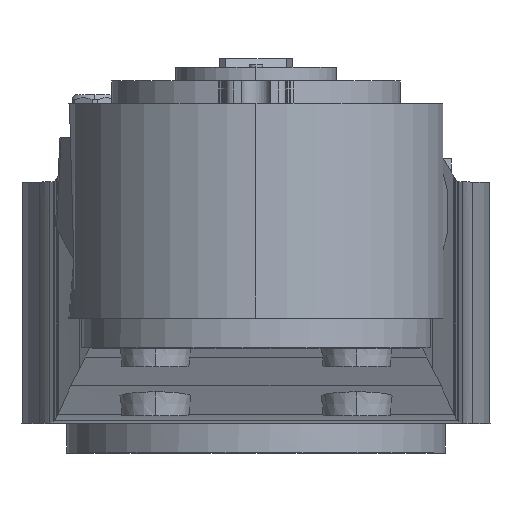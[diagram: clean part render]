
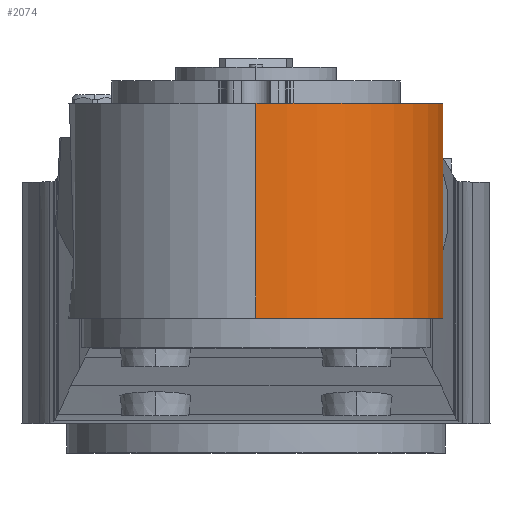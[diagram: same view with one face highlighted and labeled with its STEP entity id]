
A CAD part, top view. The second image highlights one B-rep face of the part: STEP entity #2074.
In plain terms, the highlighted free-form (B-spline) face has degree [1, 9] with [2, 10] control points.
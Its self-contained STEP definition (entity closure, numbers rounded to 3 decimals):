
#188 = DIRECTION ( 'NONE',  ( 0., -1., 0. ) ) ;
#199 = CARTESIAN_POINT ( 'NONE',  ( 209.415, -163.5, 1149.633 ) ) ;
#231 = B_SPLINE_CURVE_WITH_KNOTS ( 'NONE', 9,
 ( #5392, #2081, #1760, #1797, #1526, #1558, #1553, #1364, #1305, #1262 ),
 .UNSPECIFIED., .F., .F.,
 ( 10, 10 ),
 ( 0., 0.148 ),
 .UNSPECIFIED. ) ;
#1262 = CARTESIAN_POINT ( 'NONE',  ( 209.415, -123.5, 1149.633 ) ) ;
#1305 = CARTESIAN_POINT ( 'NONE',  ( 218.125, -123.5, 1163.669 ) ) ;
#1364 = CARTESIAN_POINT ( 'NONE',  ( 223.104, -123.5, 1180.02 ) ) ;
#1526 = CARTESIAN_POINT ( 'NONE',  ( 210.741, -123.5, 1230.555 ) ) ;
#1553 = CARTESIAN_POINT ( 'NONE',  ( 223.649, -123.5, 1197.553 ) ) ;
#1558 = CARTESIAN_POINT ( 'NONE',  ( 219.46, -123.5, 1214.885 ) ) ;
#1760 = CARTESIAN_POINT ( 'NONE',  ( 183.037, -123.5, 1252.034 ) ) ;
#1797 = CARTESIAN_POINT ( 'NONE',  ( 198.223, -123.5, 1243.253 ) ) ;
#2074 = ADVANCED_FACE ( 'NONE', ( #6238 ), #9460, .T. ) ;
#2081 = CARTESIAN_POINT ( 'NONE',  ( 166.519, -123.5, 1256.424 ) ) ;
#2452 = LINE ( 'NONE', #8086, #2463 ) ;
#2463 = VECTOR ( 'NONE', #8073, 1000. ) ;
#3004 = ORIENTED_EDGE ( 'NONE', *, *, #10035, .T. ) ;
#3102 = VERTEX_POINT ( 'NONE', #11253 ) ;
#3247 = VERTEX_POINT ( 'NONE', #10984 ) ;
#3303 = ORIENTED_EDGE ( 'NONE', *, *, #8126, .F. ) ;
#3483 = ORIENTED_EDGE ( 'NONE', *, *, #8352, .F. ) ;
#3547 = ORIENTED_EDGE ( 'NONE', *, *, #8684, .T. ) ;
#3556 = VECTOR ( 'NONE', #188, 1000. ) ;
#3570 = LINE ( 'NONE', #199, #3556 ) ;
#4613 = CARTESIAN_POINT ( 'NONE',  ( 150., -203.5, 1256.424 ) ) ;
#5003 = CARTESIAN_POINT ( 'NONE',  ( 209.415, -203.5, 1149.633 ) ) ;
#5392 = CARTESIAN_POINT ( 'NONE',  ( 150., -123.5, 1256.424 ) ) ;
#5543 = VERTEX_POINT ( 'NONE', #5003 ) ;
#5677 = VERTEX_POINT ( 'NONE', #4613 ) ;
#6091 = CARTESIAN_POINT ( 'NONE',  ( 209.415, -203.5, 1149.633 ) ) ;
#6092 = CARTESIAN_POINT ( 'NONE',  ( 218.125, -203.5, 1163.669 ) ) ;
#6106 = CARTESIAN_POINT ( 'NONE',  ( 223.104, -203.5, 1180.02 ) ) ;
#6119 = CARTESIAN_POINT ( 'NONE',  ( 223.649, -203.5, 1197.553 ) ) ;
#6130 = CARTESIAN_POINT ( 'NONE',  ( 219.46, -203.5, 1214.885 ) ) ;
#6133 = CARTESIAN_POINT ( 'NONE',  ( 210.741, -203.5, 1230.555 ) ) ;
#6147 = CARTESIAN_POINT ( 'NONE',  ( 198.223, -203.5, 1243.253 ) ) ;
#6158 = CARTESIAN_POINT ( 'NONE',  ( 183.037, -203.5, 1252.034 ) ) ;
#6206 = CARTESIAN_POINT ( 'NONE',  ( 150., -203.5, 1256.424 ) ) ;
#6238 = FACE_OUTER_BOUND ( 'NONE', #10623, .T. ) ;
#6589 = CARTESIAN_POINT ( 'NONE',  ( 166.519, -203.5, 1256.424 ) ) ;
#7430 = CARTESIAN_POINT ( 'NONE',  ( 209.407, -203.504, 1149.62 ) ) ;
#7470 = CARTESIAN_POINT ( 'NONE',  ( 218.121, -203.504, 1163.657 ) ) ;
#7479 = CARTESIAN_POINT ( 'NONE',  ( 223.104, -203.504, 1180.01 ) ) ;
#7517 = CARTESIAN_POINT ( 'NONE',  ( 223.652, -203.504, 1197.545 ) ) ;
#7543 = CARTESIAN_POINT ( 'NONE',  ( 219.463, -203.504, 1214.88 ) ) ;
#7544 = CARTESIAN_POINT ( 'NONE',  ( 210.744, -203.504, 1230.554 ) ) ;
#7554 = CARTESIAN_POINT ( 'NONE',  ( 198.223, -203.504, 1243.254 ) ) ;
#7584 = CARTESIAN_POINT ( 'NONE',  ( 183.035, -203.504, 1252.036 ) ) ;
#7635 = CARTESIAN_POINT ( 'NONE',  ( 166.514, -203.504, 1256.426 ) ) ;
#7654 = CARTESIAN_POINT ( 'NONE',  ( 149.993, -203.504, 1256.424 ) ) ;
#7673 = CARTESIAN_POINT ( 'NONE',  ( 209.407, -123.496, 1149.62 ) ) ;
#7689 = CARTESIAN_POINT ( 'NONE',  ( 219.463, -123.496, 1214.88 ) ) ;
#7699 = CARTESIAN_POINT ( 'NONE',  ( 218.121, -123.496, 1163.657 ) ) ;
#7700 = CARTESIAN_POINT ( 'NONE',  ( 223.104, -123.496, 1180.01 ) ) ;
#7710 = CARTESIAN_POINT ( 'NONE',  ( 223.652, -123.496, 1197.545 ) ) ;
#7852 = CARTESIAN_POINT ( 'NONE',  ( 210.744, -123.496, 1230.554 ) ) ;
#7856 = CARTESIAN_POINT ( 'NONE',  ( 198.223, -123.496, 1243.254 ) ) ;
#7864 = CARTESIAN_POINT ( 'NONE',  ( 166.514, -123.496, 1256.426 ) ) ;
#7867 = CARTESIAN_POINT ( 'NONE',  ( 183.035, -123.496, 1252.036 ) ) ;
#7886 = B_SPLINE_CURVE_WITH_KNOTS ( 'NONE', 9,
 ( #6206, #6589, #6158, #6147, #6133, #6130, #6119, #6106, #6092, #6091 ),
 .UNSPECIFIED., .F., .F.,
 ( 10, 10 ),
 ( 0., 1. ),
 .UNSPECIFIED. ) ;
#8017 = CARTESIAN_POINT ( 'NONE',  ( 149.993, -123.496, 1256.424 ) ) ;
#8073 = DIRECTION ( 'NONE',  ( 0., -1., 0. ) ) ;
#8086 = CARTESIAN_POINT ( 'NONE',  ( 150., -163.5, 1256.424 ) ) ;
#8126 = EDGE_CURVE ( 'NONE', #3247, #5543, #3570, .T. ) ;
#8352 = EDGE_CURVE ( 'NONE', #3102, #3247, #231, .T. ) ;
#8684 = EDGE_CURVE ( 'NONE', #3102, #5677, #2452, .T. ) ;
#9460 = B_SPLINE_SURFACE_WITH_KNOTS ( 'NONE', 1, 9, ( 
 ( #8017, #7864, #7867, #7856, #7852, #7689, #7710, #7700, #7699, #7673 ),
 ( #7654, #7635, #7584, #7554, #7544, #7543, #7517, #7479, #7470, #7430 ) ),
 .UNSPECIFIED., .F., .F., .F.,
 ( 2, 2 ),
 ( 10, 10 ),
 ( 0., 1. ),
 ( 0., 1. ),
 .UNSPECIFIED. ) ;
#10035 = EDGE_CURVE ( 'NONE', #5677, #5543, #7886, .T. ) ;
#10623 = EDGE_LOOP ( 'NONE', ( #3004, #3303, #3483, #3547 ) ) ;
#10984 = CARTESIAN_POINT ( 'NONE',  ( 209.415, -123.5, 1149.633 ) ) ;
#11253 = CARTESIAN_POINT ( 'NONE',  ( 150., -123.5, 1256.424 ) ) ;
